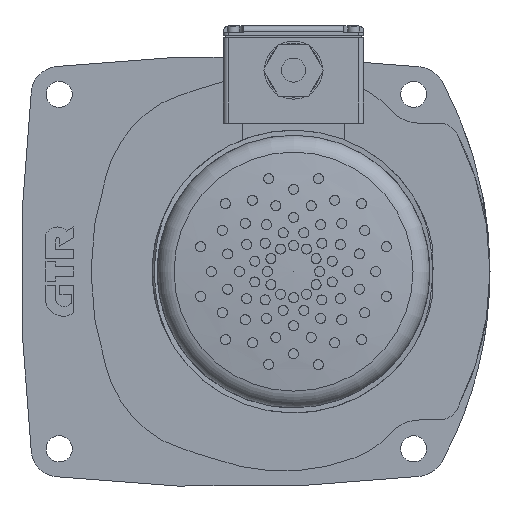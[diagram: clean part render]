
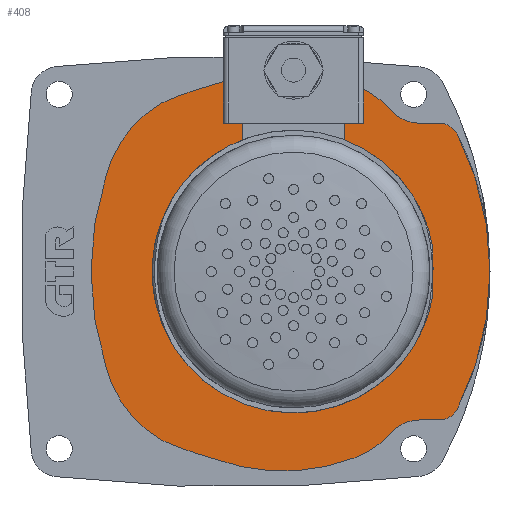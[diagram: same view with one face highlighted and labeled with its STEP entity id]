
A CAD part, left-side view. The second image highlights one B-rep face of the part: STEP entity #408.
In plain terms, the highlighted planar face has unit normal (-1, 0, 0).
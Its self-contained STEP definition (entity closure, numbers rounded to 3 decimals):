
#408 = ADVANCED_FACE( '', ( #1189 ), #1190, .F. );
#1189 = FACE_OUTER_BOUND( '', #2751, .T. );
#1190 = PLANE( '', #2752 );
#2751 = EDGE_LOOP( '', ( #4860, #4861, #4862, #4863, #4864, #4865, #4866, #4867, #4868, #4869, #4870, #4871, #4872, #4873, #4874, #4875 ) );
#2752 = AXIS2_PLACEMENT_3D( '', #4876, #4877, #4878 );
#4860 = ORIENTED_EDGE( '', *, *, #9370, .F. );
#4861 = ORIENTED_EDGE( '', *, *, #9371, .F. );
#4862 = ORIENTED_EDGE( '', *, *, #9372, .F. );
#4863 = ORIENTED_EDGE( '', *, *, #9373, .F. );
#4864 = ORIENTED_EDGE( '', *, *, #9374, .F. );
#4865 = ORIENTED_EDGE( '', *, *, #9375, .F. );
#4866 = ORIENTED_EDGE( '', *, *, #9376, .F. );
#4867 = ORIENTED_EDGE( '', *, *, #9377, .T. );
#4868 = ORIENTED_EDGE( '', *, *, #9378, .F. );
#4869 = ORIENTED_EDGE( '', *, *, #9379, .F. );
#4870 = ORIENTED_EDGE( '', *, *, #9380, .F. );
#4871 = ORIENTED_EDGE( '', *, *, #9381, .F. );
#4872 = ORIENTED_EDGE( '', *, *, #9382, .F. );
#4873 = ORIENTED_EDGE( '', *, *, #9383, .T. );
#4874 = ORIENTED_EDGE( '', *, *, #9384, .F. );
#4875 = ORIENTED_EDGE( '', *, *, #9385, .F. );
#4876 = CARTESIAN_POINT( '', ( -110., -35.5, -80. ) );
#4877 = DIRECTION( '', ( 1., 0., 0. ) );
#4878 = DIRECTION( '', ( 0., 0., -1. ) );
#9370 = EDGE_CURVE( '', #11052, #11053, #11054, .T. );
#9371 = EDGE_CURVE( '', #11055, #11052, #11056, .T. );
#9372 = EDGE_CURVE( '', #11057, #11055, #11058, .T. );
#9373 = EDGE_CURVE( '', #11059, #11057, #11060, .T. );
#9374 = EDGE_CURVE( '', #11061, #11059, #11062, .T. );
#9375 = EDGE_CURVE( '', #11063, #11061, #11064, .T. );
#9376 = EDGE_CURVE( '', #11065, #11063, #11066, .T. );
#9377 = EDGE_CURVE( '', #11065, #11067, #11068, .T. );
#9378 = EDGE_CURVE( '', #11069, #11067, #11070, .T. );
#9379 = EDGE_CURVE( '', #11071, #11069, #11072, .T. );
#9380 = EDGE_CURVE( '', #11073, #11071, #11074, .T. );
#9381 = EDGE_CURVE( '', #11075, #11073, #11076, .T. );
#9382 = EDGE_CURVE( '', #11077, #11075, #11078, .T. );
#9383 = EDGE_CURVE( '', #11077, #11079, #11080, .T. );
#9384 = EDGE_CURVE( '', #11081, #11079, #11082, .T. );
#9385 = EDGE_CURVE( '', #11053, #11081, #11083, .T. );
#11052 = VERTEX_POINT( '', #13771 );
#11053 = VERTEX_POINT( '', #13772 );
#11054 = CIRCLE( '', #13773, 179.5 );
#11055 = VERTEX_POINT( '', #13774 );
#11056 = CIRCLE( '', #13775, 59.5 );
#11057 = VERTEX_POINT( '', #13776 );
#11058 = CIRCLE( '', #13777, 154.5 );
#11059 = VERTEX_POINT( '', #13778 );
#11060 = CIRCLE( '', #13779, 59.5 );
#11061 = VERTEX_POINT( '', #13780 );
#11062 = CIRCLE( '', #13781, 179.5 );
#11063 = VERTEX_POINT( '', #13782 );
#11064 = CIRCLE( '', #13783, 99.5 );
#11065 = VERTEX_POINT( '', #13784 );
#11066 = CIRCLE( '', #13785, 50. );
#11067 = VERTEX_POINT( '', #13786 );
#11068 = CIRCLE( '', #13787, 18. );
#11069 = VERTEX_POINT( '', #13788 );
#11070 = LINE( '', #13789, #13790 );
#11071 = VERTEX_POINT( '', #13791 );
#11072 = CIRCLE( '', #13792, 10. );
#11073 = VERTEX_POINT( '', #13793 );
#11074 = CIRCLE( '', #13794, 152.5 );
#11075 = VERTEX_POINT( '', #13795 );
#11076 = CIRCLE( '', #13796, 10. );
#11077 = VERTEX_POINT( '', #13797 );
#11078 = LINE( '', #13798, #13799 );
#11079 = VERTEX_POINT( '', #13800 );
#11080 = CIRCLE( '', #13801, 18. );
#11081 = VERTEX_POINT( '', #13802 );
#11082 = CIRCLE( '', #13803, 50. );
#11083 = CIRCLE( '', #13804, 99.5 );
#13771 = CARTESIAN_POINT( '', ( -110., 37.187, 84.125 ) );
#13772 = CARTESIAN_POINT( '', ( -110., 11.287, 93.295 ) );
#13773 = AXIS2_PLACEMENT_3D( '', #21728, #21729, #21730 );
#13774 = CARTESIAN_POINT( '', ( -110., 65.101, 47.239 ) );
#13775 = AXIS2_PLACEMENT_3D( '', #21731, #21732, #21733 );
#13776 = CARTESIAN_POINT( '', ( -110., 65.101, -47.239 ) );
#13777 = AXIS2_PLACEMENT_3D( '', #21734, #21735, #21736 );
#13778 = CARTESIAN_POINT( '', ( -110., 37.187, -84.125 ) );
#13779 = AXIS2_PLACEMENT_3D( '', #21737, #21738, #21739 );
#13780 = CARTESIAN_POINT( '', ( -110., 11.287, -93.295 ) );
#13781 = AXIS2_PLACEMENT_3D( '', #21740, #21741, #21742 );
#13782 = CARTESIAN_POINT( '', ( -110., -58.663, -93.004 ) );
#13783 = AXIS2_PLACEMENT_3D( '', #21743, #21744, #21745 );
#13784 = CARTESIAN_POINT( '', ( -110., -77.891, -79.992 ) );
#13785 = AXIS2_PLACEMENT_3D( '', #21746, #21747, #21748 );
#13786 = CARTESIAN_POINT( '', ( -110., -91.3, -74. ) );
#13787 = AXIS2_PLACEMENT_3D( '', #21749, #21750, #21751 );
#13788 = CARTESIAN_POINT( '', ( -110., -101.32, -74. ) );
#13789 = CARTESIAN_POINT( '', ( -110., -101.32, -74. ) );
#13790 = VECTOR( '', #21752, 1000. );
#13791 = CARTESIAN_POINT( '', ( -110., -110.209, -68.58 ) );
#13792 = AXIS2_PLACEMENT_3D( '', #21753, #21754, #21755 );
#13793 = CARTESIAN_POINT( '', ( -110., -110.209, 68.58 ) );
#13794 = AXIS2_PLACEMENT_3D( '', #21756, #21757, #21758 );
#13795 = CARTESIAN_POINT( '', ( -110., -101.32, 74. ) );
#13796 = AXIS2_PLACEMENT_3D( '', #21759, #21760, #21761 );
#13797 = CARTESIAN_POINT( '', ( -110., -91.3, 74. ) );
#13798 = CARTESIAN_POINT( '', ( -110., -91.3, 74. ) );
#13799 = VECTOR( '', #21762, 1000. );
#13800 = CARTESIAN_POINT( '', ( -110., -77.891, 79.992 ) );
#13801 = AXIS2_PLACEMENT_3D( '', #21763, #21764, #21765 );
#13802 = CARTESIAN_POINT( '', ( -110., -58.663, 93.004 ) );
#13803 = AXIS2_PLACEMENT_3D( '', #21766, #21767, #21768 );
#13804 = AXIS2_PLACEMENT_3D( '', #21769, #21770, #21771 );
#21728 = CARTESIAN_POINT( '', ( -110., -35.5, -80. ) );
#21729 = DIRECTION( '', ( 1., 0., 0. ) );
#21730 = DIRECTION( '', ( 0., 0., -1. ) );
#21731 = CARTESIAN_POINT( '', ( -110., 7.43, 32.6 ) );
#21732 = DIRECTION( '', ( 1., 0., 0. ) );
#21733 = DIRECTION( '', ( 0., 0., -1. ) );
#21734 = CARTESIAN_POINT( '', ( -110., -82., 0. ) );
#21735 = DIRECTION( '', ( 1., 0., 0. ) );
#21736 = DIRECTION( '', ( 0., 0., -1. ) );
#21737 = CARTESIAN_POINT( '', ( -110., 7.43, -32.6 ) );
#21738 = DIRECTION( '', ( 1., 0., 0. ) );
#21739 = DIRECTION( '', ( 0., 0., -1. ) );
#21740 = CARTESIAN_POINT( '', ( -110., -35.5, 80. ) );
#21741 = DIRECTION( '', ( 1., 0., 0. ) );
#21742 = DIRECTION( '', ( 0., 0., -1. ) );
#21743 = CARTESIAN_POINT( '', ( -110., -23.3, 0. ) );
#21744 = DIRECTION( '', ( 1., 0., 0. ) );
#21745 = DIRECTION( '', ( 0., 0., -1. ) );
#21746 = CARTESIAN_POINT( '', ( -110., -41.02, -46.22 ) );
#21747 = DIRECTION( '', ( 1., 0., 0. ) );
#21748 = DIRECTION( '', ( 0., 0., -1. ) );
#21749 = CARTESIAN_POINT( '', ( -110., -91.3, -92. ) );
#21750 = DIRECTION( '', ( 1., 0., 0. ) );
#21751 = DIRECTION( '', ( 0., 0., -1. ) );
#21752 = DIRECTION( '', ( 0., 1., 0. ) );
#21753 = CARTESIAN_POINT( '', ( -110., -101.32, -64. ) );
#21754 = DIRECTION( '', ( 1., 0., 0. ) );
#21755 = DIRECTION( '', ( 0., 0., -1. ) );
#21756 = CARTESIAN_POINT( '', ( -110., 26., 0. ) );
#21757 = DIRECTION( '', ( 1., 0., 0. ) );
#21758 = DIRECTION( '', ( 0., 0., -1. ) );
#21759 = CARTESIAN_POINT( '', ( -110., -101.32, 64. ) );
#21760 = DIRECTION( '', ( 1., 0., 0. ) );
#21761 = DIRECTION( '', ( 0., 0., -1. ) );
#21762 = DIRECTION( '', ( 0., -1., 0. ) );
#21763 = CARTESIAN_POINT( '', ( -110., -91.3, 92. ) );
#21764 = DIRECTION( '', ( 1., 0., 0. ) );
#21765 = DIRECTION( '', ( 0., 0., -1. ) );
#21766 = CARTESIAN_POINT( '', ( -110., -41.02, 46.22 ) );
#21767 = DIRECTION( '', ( 1., 0., 0. ) );
#21768 = DIRECTION( '', ( 0., 0., -1. ) );
#21769 = CARTESIAN_POINT( '', ( -110., -23.3, 0. ) );
#21770 = DIRECTION( '', ( 1., 0., 0. ) );
#21771 = DIRECTION( '', ( 0., 0., -1. ) );
